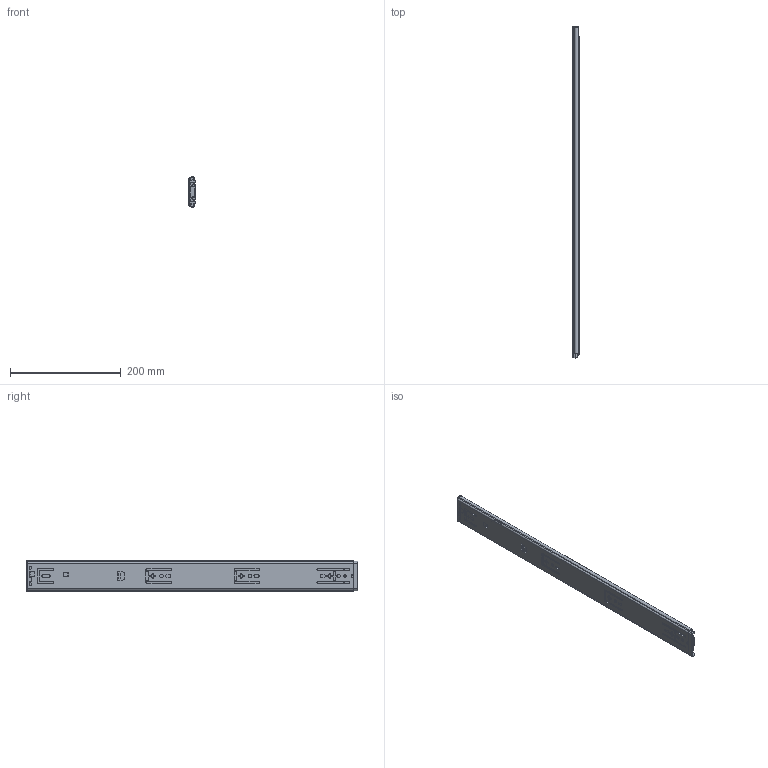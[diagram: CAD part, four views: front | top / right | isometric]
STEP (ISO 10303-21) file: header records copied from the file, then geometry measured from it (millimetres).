
FILE_DESCRIPTION( ( 'Unknown' ), '1' );
FILE_NAME( 'C:/Users/rd30/Desktop/85A01-600-Close.stp', 'Unknown', ( 'Unknown' ), ( 'Unknown' ), 'PSStep 14.0', 'Unknown', ' ' );
FILE_SCHEMA( ( 'AUTOMOTIVE_DESIGN { 1 0 10303 214 1 1 1 1 }' ) );
Length unit declared in the file: millimetre
Products named in the file (8): P10-366-3-1; P10-367-130429; 本體(卡式)20130423-\X2\4FEE6A21571\X0\; Assem1; 85A01P11-02-600; 85A01P21-03-600; 85A01P30-04-B; 85A01P30-04-600
Assembly tree (7 placements, depth 3):
  Assem1
    85A01P11-02-600
    85A01P21-03-600
    85A01P30-04-B
    85A01P30-04-600
    P10-366-3-1
      P10-367-130429
      本體(卡式)20130423-\X2\4FEE6A21571\X0\
Bounding box: 12.6 x 600 x 55.37 mm (x, y, z)
Volume: 213511.8 mm3; surface area: 194260.2 mm2
Topology: 6 solids, 6 shells, 693 faces, 1988 edges, 1305 vertices
Faces by surface type: plane 334, cylinder 299, cone 32, torus 24, bspline 2, sphere 2
Full cylindrical faces by diameter (mm): 1.4 x1, 3 x1, 3.2 x1, 4.6 x1, 5 x4, 5.1 x1, 5.5 x1, 6.25 x1, 6.4 x3
Entity records: 28821 total; most frequent: CARTESIAN_POINT 4358, DIRECTION 3939, ORIENTED_EDGE 3914, EDGE_CURVE 1957, AXIS2_PLACEMENT_3D 1366, VERTEX_POINT 1293, LINE 1207, VECTOR 1207
